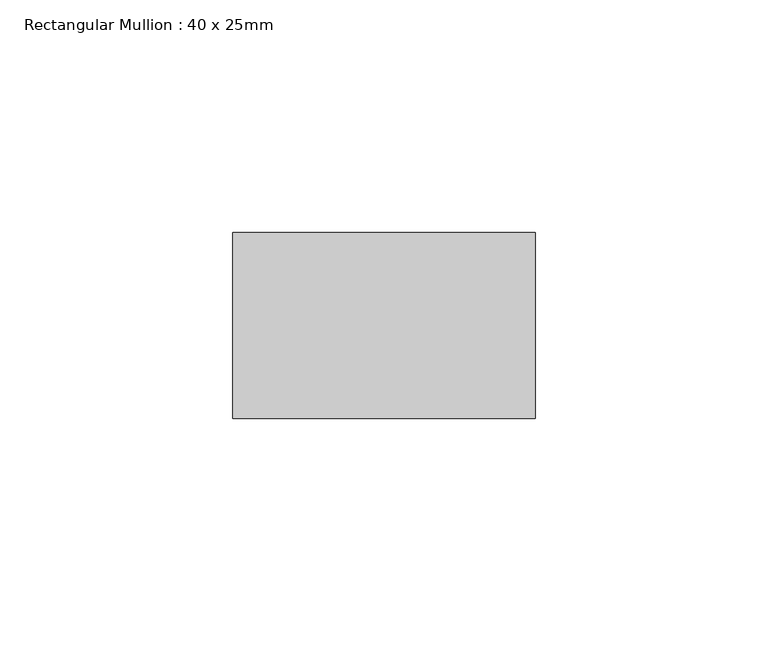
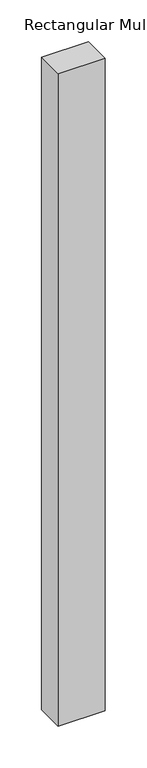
"""IFC4 building model written with IfcOpenShell, lengths in millimetres: member geometry, Rectangular Mullion : 40 x 25mm."""

from ifc_helpers import new_model, si_unit, frame, origin, place, context, project, spatial, polyline, outline, extrude, source, transform, mapped, element, save


def rectangular_mullion_40_x_25mm_4cf51fbd(model_context):
    return source(origin(), model_context, "Body", "SweptSolid", [
        extrude(outline(polyline([(0.0, -20.0), (0.0, -60.0), (-65.0, -60.0), (-65.0, -20.0), (0.0, -20.0)])), frame((0.0, 0.0, -955.0170726), z_axis=(0.0, 0.0, 1.0), x_axis=(1.0, 0.0, 0.0)), (0.0, 0.0, 1.0), 955.0170726),
    ])


if __name__ == "__main__":
    model = new_model("IFC4")
    model_context = context("Model", 3, world=origin())
    ifc_project = project(units=[si_unit("LENGTHUNIT", "METRE", prefix="MILLI")], contexts=[model_context])
    site = spatial("IfcSite", under=ifc_project)
    building = spatial("IfcBuilding", under=site)
    placement = place(None, origin())
    rectangular_mullion_40_x_25mm_shape = rectangular_mullion_40_x_25mm_4cf51fbd(model_context)
    element("IfcMember", 1, ObjectType="Rectangular Mullion : 40 x 25mm", at=placement, inside=building, context=model_context, shape_type="MappedRepresentation", body=[
        mapped(rectangular_mullion_40_x_25mm_shape, transform((0.0, 0.0, 0.0), x_axis=(1.0, 0.0, 0.0), y_axis=(0.0, 1.0, 0.0), z_axis=(0.0, 0.0, 1.0))),
    ])
    save(model, "model.ifc")
